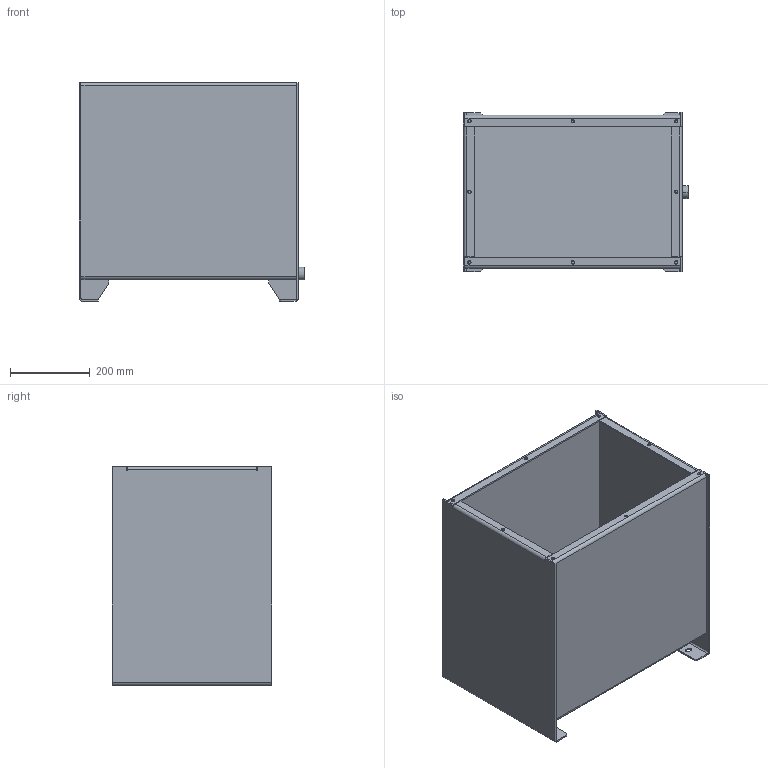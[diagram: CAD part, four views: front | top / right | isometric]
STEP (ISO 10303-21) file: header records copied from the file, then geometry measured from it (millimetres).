
FILE_DESCRIPTION (( 'STEP AP203' ), '1' );
FILE_NAME ('CFP75.STEP', '2016-02-12T15:40:03', ( '' ), ( '' ), 'SwSTEP 2.0', 'SolidWorks 2016', '' );
FILE_SCHEMA (( 'CONFIG_CONTROL_DESIGN' ));
Length unit declared in the file: millimetre
Products named in the file (1): CFP75
Bounding box: 566 x 400 x 550 mm (x, y, z)
Volume: 5032842.3 mm3; surface area: 2560648.2 mm2
Topology: 16 solids, 16 shells, 417 faces, 924 edges, 540 vertices
Faces by surface type: plane 341, cylinder 72, cone 4
Entity records: 11237 total; most frequent: DIRECTION 1908, CARTESIAN_POINT 1882, ORIENTED_EDGE 1848, EDGE_CURVE 924, LINE 776, VECTOR 776, AXIS2_PLACEMENT_3D 566, VERTEX_POINT 540
